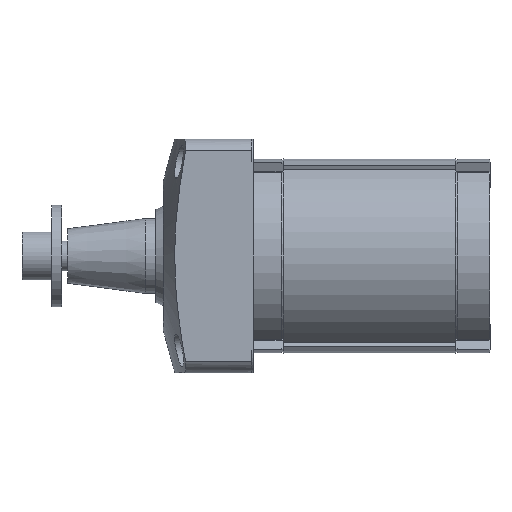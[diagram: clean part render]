
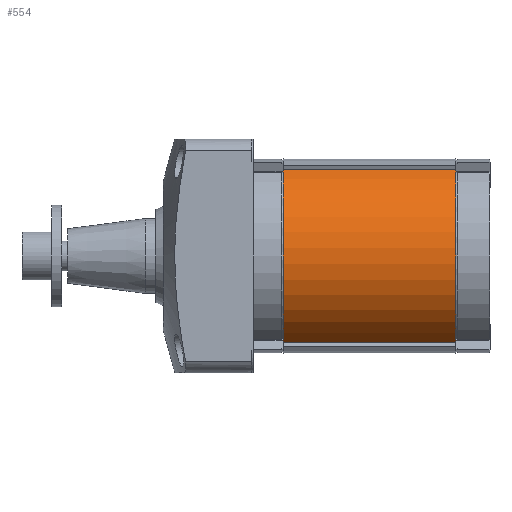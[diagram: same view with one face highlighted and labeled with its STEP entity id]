
A CAD part, left-side view. The second image highlights one B-rep face of the part: STEP entity #554.
In plain terms, the highlighted cylindrical face has radius 32.5 mm (diameter 65 mm), a partial arc.
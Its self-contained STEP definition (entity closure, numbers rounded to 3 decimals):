
#554 = ADVANCED_FACE( '', ( #1060 ), #1061, .T. );
#1060 = FACE_OUTER_BOUND( '', #1699, .T. );
#1061 = CYLINDRICAL_SURFACE( '', #1700, 32.5 );
#1699 = EDGE_LOOP( '', ( #3311, #3312, #3313, #3314 ) );
#1700 = AXIS2_PLACEMENT_3D( '', #3315, #3316, #3317 );
#3311 = ORIENTED_EDGE( '', *, *, #4501, .F. );
#3312 = ORIENTED_EDGE( '', *, *, #4281, .F. );
#3313 = ORIENTED_EDGE( '', *, *, #4502, .T. );
#3314 = ORIENTED_EDGE( '', *, *, #4393, .T. );
#3315 = CARTESIAN_POINT( '', ( 0., -67.5, 0. ) );
#3316 = DIRECTION( '', ( 0., -1., 0. ) );
#3317 = DIRECTION( '', ( 1., 0., 0. ) );
#4281 = EDGE_CURVE( '', #5132, #5134, #5135, .T. );
#4393 = EDGE_CURVE( '', #5334, #5332, #5335, .T. );
#4501 = EDGE_CURVE( '', #5134, #5332, #5500, .T. );
#4502 = EDGE_CURVE( '', #5132, #5334, #5501, .T. );
#5132 = VERTEX_POINT( '', #6857 );
#5134 = VERTEX_POINT( '', #6860 );
#5135 = CIRCLE( '', #6861, 32.5 );
#5332 = VERTEX_POINT( '', #7131 );
#5334 = VERTEX_POINT( '', #7134 );
#5335 = CIRCLE( '', #7135, 32.5 );
#5500 = LINE( '', #7420, #7421 );
#5501 = LINE( '', #7422, #7423 );
#6857 = CARTESIAN_POINT( '', ( -15.169, -67.5, 28.743 ) );
#6860 = CARTESIAN_POINT( '', ( -15.169, -67.5, -28.743 ) );
#6861 = AXIS2_PLACEMENT_3D( '', #8203, #8204, #8205 );
#7131 = CARTESIAN_POINT( '', ( -15.169, -10., -28.743 ) );
#7134 = CARTESIAN_POINT( '', ( -15.169, -10., 28.743 ) );
#7135 = AXIS2_PLACEMENT_3D( '', #8391, #8392, #8393 );
#7420 = CARTESIAN_POINT( '', ( -15.169, -67.5, -28.743 ) );
#7421 = VECTOR( '', #8564, 1000. );
#7422 = CARTESIAN_POINT( '', ( -15.169, -118.426, 28.743 ) );
#7423 = VECTOR( '', #8565, 1000. );
#8203 = CARTESIAN_POINT( '', ( 0., -67.5, 0. ) );
#8204 = DIRECTION( '', ( 0., -1., 0. ) );
#8205 = DIRECTION( '', ( 0., 0., -1. ) );
#8391 = CARTESIAN_POINT( '', ( 0., -10., 0. ) );
#8392 = DIRECTION( '', ( 0., -1., 0. ) );
#8393 = DIRECTION( '', ( 0., 0., -1. ) );
#8564 = DIRECTION( '', ( 0., 1., 0. ) );
#8565 = DIRECTION( '', ( 0., 1., 0. ) );
